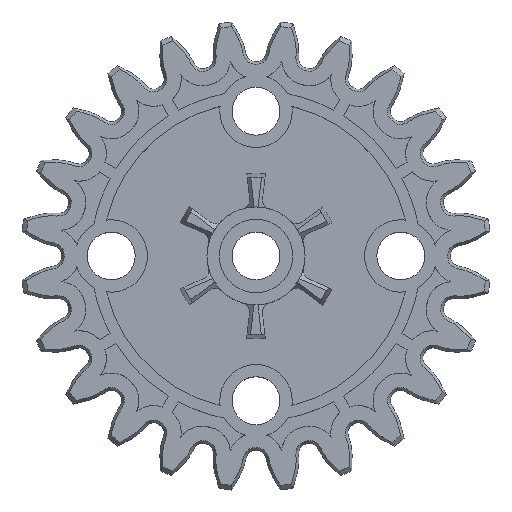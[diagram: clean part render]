
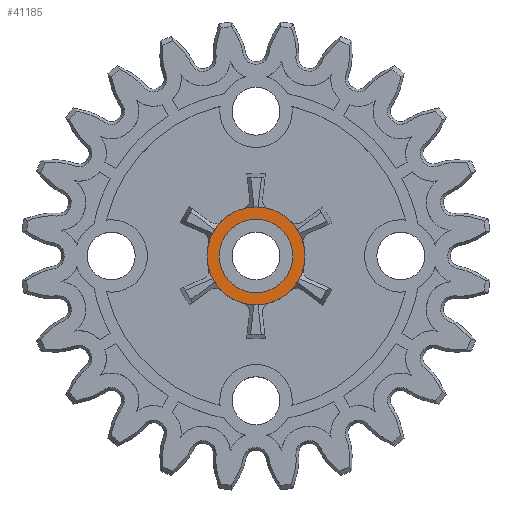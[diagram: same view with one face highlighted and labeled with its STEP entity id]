
A CAD part, top view. The second image highlights one B-rep face of the part: STEP entity #41185.
In plain terms, the highlighted planar face has unit normal (0, 0, 1).
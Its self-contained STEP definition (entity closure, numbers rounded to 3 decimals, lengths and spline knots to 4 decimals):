
#1132 = CARTESIAN_POINT ( 'NONE',  ( 0., 0., 3.175 ) ) ;
#3571 = DIRECTION ( 'NONE',  ( 0., 0., 1. ) ) ;
#3580 = EDGE_CURVE ( 'NONE', #4378, #54229, #32454, .T. ) ;
#4378 = VERTEX_POINT ( 'NONE', #24836 ) ;
#4630 = CIRCLE ( 'NONE', #5575, 4.3 ) ;
#4703 = AXIS2_PLACEMENT_3D ( 'NONE', #43558, #53010, #19497 ) ;
#5032 = PLANE ( 'NONE',  #54234 ) ;
#5332 = DIRECTION ( 'NONE',  ( 1., 0., 0. ) ) ;
#5575 = AXIS2_PLACEMENT_3D ( 'NONE', #1132, #6007, #34345 ) ;
#6007 = DIRECTION ( 'NONE',  ( 0., 0., 1. ) ) ;
#9933 = EDGE_LOOP ( 'NONE', ( #27346, #45671 ) ) ;
#10435 = VERTEX_POINT ( 'NONE', #32720 ) ;
#12242 = CARTESIAN_POINT ( 'NONE',  ( 0., 0., 3.175 ) ) ;
#14777 = DIRECTION ( 'NONE',  ( 0., 0., 1. ) ) ;
#19497 = DIRECTION ( 'NONE',  ( 1., 0., 0. ) ) ;
#22162 = DIRECTION ( 'NONE',  ( 1., 0., 0. ) ) ;
#23193 = CIRCLE ( 'NONE', #4703, 3.225 ) ;
#24836 = CARTESIAN_POINT ( 'NONE',  ( 3.225, 0., 3.175 ) ) ;
#26241 = DIRECTION ( 'NONE',  ( 0., 0., 1. ) ) ;
#26488 = AXIS2_PLACEMENT_3D ( 'NONE', #12242, #26241, #59147 ) ;
#26726 = CARTESIAN_POINT ( 'NONE',  ( 0., 0., 3.175 ) ) ;
#27346 = ORIENTED_EDGE ( 'NONE', *, *, #58960, .F. ) ;
#32454 = CIRCLE ( 'NONE', #45123, 3.225 ) ;
#32720 = CARTESIAN_POINT ( 'NONE',  ( -4.3, 0., 3.175 ) ) ;
#34345 = DIRECTION ( 'NONE',  ( 1., 0., 0. ) ) ;
#35753 = EDGE_CURVE ( 'NONE', #55636, #10435, #4630, .T. ) ;
#36730 = ORIENTED_EDGE ( 'NONE', *, *, #35753, .T. ) ;
#38381 = ORIENTED_EDGE ( 'NONE', *, *, #42260, .T. ) ;
#40205 = CARTESIAN_POINT ( 'NONE',  ( -3.225, 0., 3.175 ) ) ;
#41185 = ADVANCED_FACE ( 'NONE', ( #56510, #55926 ), #5032, .T. ) ;
#42260 = EDGE_CURVE ( 'NONE', #10435, #55636, #47855, .T. ) ;
#43558 = CARTESIAN_POINT ( 'NONE',  ( 0., 0., 3.175 ) ) ;
#45123 = AXIS2_PLACEMENT_3D ( 'NONE', #26726, #3571, #22162 ) ;
#45671 = ORIENTED_EDGE ( 'NONE', *, *, #3580, .F. ) ;
#46994 = CARTESIAN_POINT ( 'NONE',  ( 4.3, 0., 3.175 ) ) ;
#47855 = CIRCLE ( 'NONE', #26488, 4.3 ) ;
#51166 = EDGE_LOOP ( 'NONE', ( #38381, #36730 ) ) ;
#51946 = CARTESIAN_POINT ( 'NONE',  ( 0., 0., 3.175 ) ) ;
#53010 = DIRECTION ( 'NONE',  ( 0., 0., 1. ) ) ;
#54229 = VERTEX_POINT ( 'NONE', #40205 ) ;
#54234 = AXIS2_PLACEMENT_3D ( 'NONE', #51946, #14777, #5332 ) ;
#55636 = VERTEX_POINT ( 'NONE', #46994 ) ;
#55926 = FACE_BOUND ( 'NONE', #9933, .T. ) ;
#56510 = FACE_OUTER_BOUND ( 'NONE', #51166, .T. ) ;
#58960 = EDGE_CURVE ( 'NONE', #54229, #4378, #23193, .T. ) ;
#59147 = DIRECTION ( 'NONE',  ( 1., 0., 0. ) ) ;
